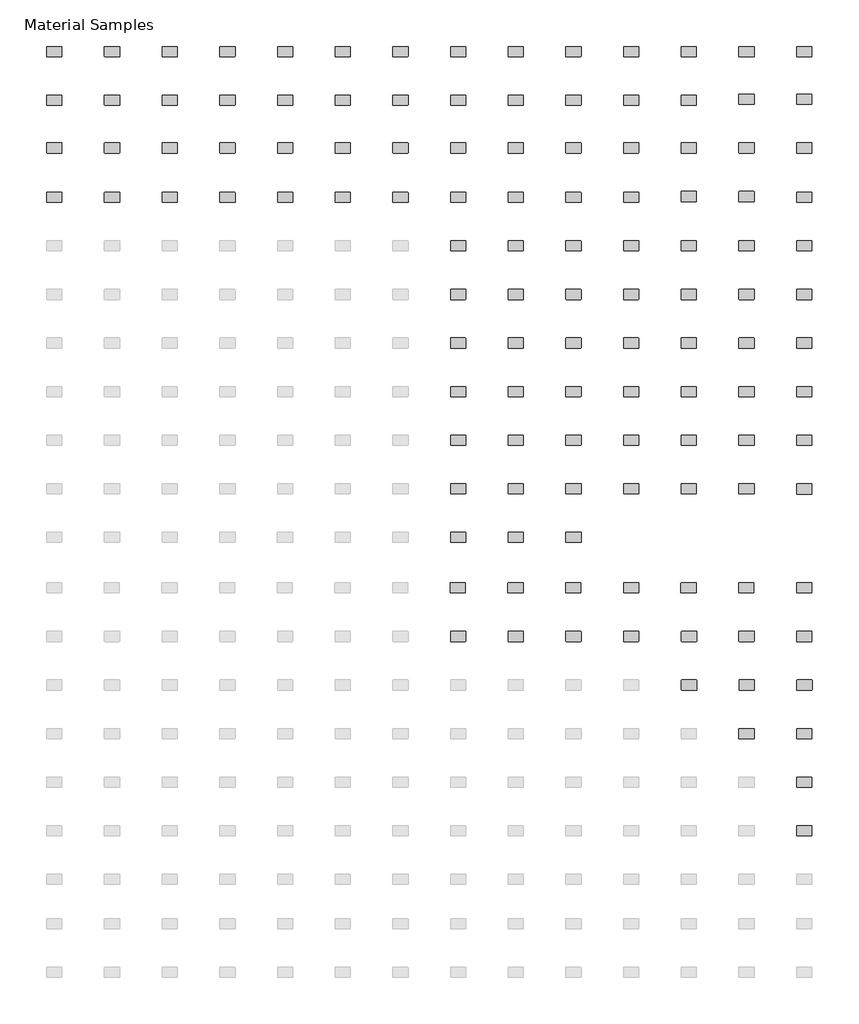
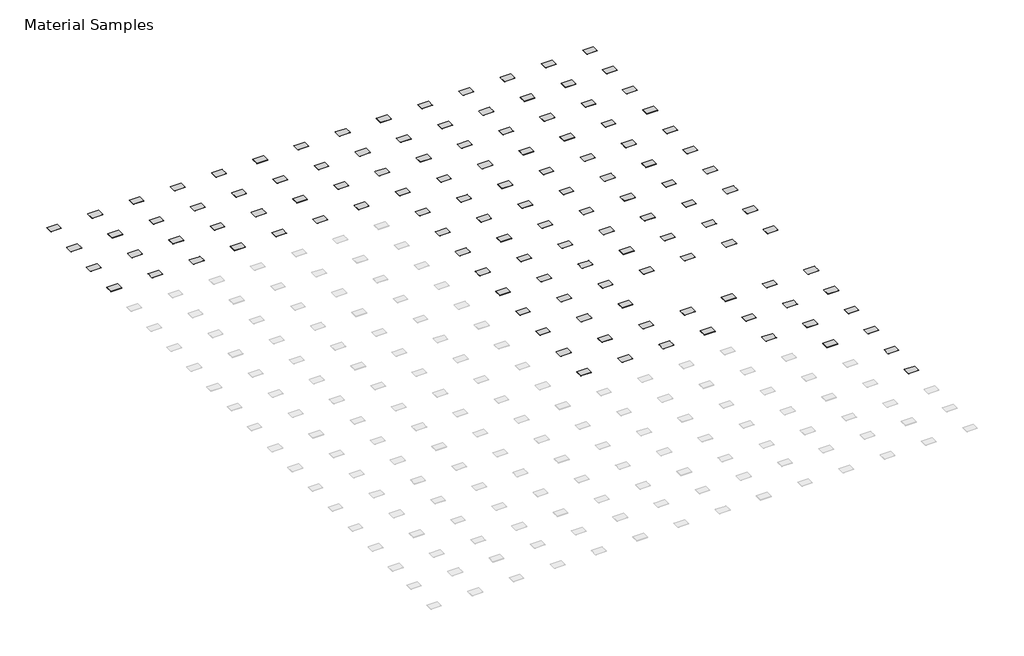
# One storey, part 3 of 3: 122 furniture elements.
"""IFC4 building model written with IfcOpenShell, lengths in millimetres."""

from ifc_helpers import new_model, si_unit, origin, place, context, project, spatial, transform, mapped, element, save
from components import furniture_2008_material_sample3_2x3x1_8_96bf408c

model = new_model("IFC4")

# Units and contexts
model_context = context("Model", 3, world=origin())
ifc_project = project(units=[si_unit("LENGTHUNIT", "METRE", prefix="MILLI")], contexts=[model_context])

# Site, building, storey
site = spatial("IfcSite", under=ifc_project)
building = spatial("IfcBuilding", under=site)
storey = spatial("IfcBuildingStorey", under=building, Name="Material Samples", Elevation=0.0)

# Furniture
placement = place(None, origin())
furniture_2008_material_sample3_2x3x1_8_shape = furniture_2008_material_sample3_2x3x1_8_96bf408c(model_context)
element("IfcFurniture", 1, ObjectType="2008_Material Sample3 : 2x3x1/8", at=placement, inside=storey, context=model_context, shape_type="MappedRepresentation", body=[
    mapped(furniture_2008_material_sample3_2x3x1_8_shape, transform((-41929.8143121, 3848.1724709, 25.4), x_axis=(1.0, 0.0, 0.0), y_axis=(0.0, 1.0, 0.0), z_axis=(0.0, 0.0, 1.0))),
])
element("IfcFurniture", 2, ObjectType="2008_Material Sample3 : 2x3x1/8", at=placement, inside=storey, context=model_context, shape_type="MappedRepresentation", body=[
    mapped(furniture_2008_material_sample3_2x3x1_8_shape, transform((-40482.0057904, 3848.1724709, 25.4), x_axis=(1.0, 0.0, 0.0), y_axis=(0.0, 1.0, 0.0), z_axis=(0.0, 0.0, 1.0))),
])
element("IfcFurniture", 3, ObjectType="2008_Material Sample3 : 2x3x1/8", at=placement, inside=storey, context=model_context, shape_type="MappedRepresentation", body=[
    mapped(furniture_2008_material_sample3_2x3x1_8_shape, transform((-39034.1972688, 3848.1724709, 25.4), x_axis=(1.0, 0.0, 0.0), y_axis=(0.0, 1.0, 0.0), z_axis=(0.0, 0.0, 1.0))),
])
element("IfcFurniture", 4, ObjectType="2008_Material Sample3 : 2x3x1/8", at=placement, inside=storey, context=model_context, shape_type="MappedRepresentation", body=[
    mapped(furniture_2008_material_sample3_2x3x1_8_shape, transform((-37586.3887471, 3848.1724709, 25.4), x_axis=(1.0, 0.0, 0.0), y_axis=(0.0, 1.0, 0.0), z_axis=(0.0, 0.0, 1.0))),
])
element("IfcFurniture", 5, ObjectType="2008_Material Sample3 : 2x3x1/8", at=placement, inside=storey, context=model_context, shape_type="MappedRepresentation", body=[
    mapped(furniture_2008_material_sample3_2x3x1_8_shape, transform((-36138.6910069, 3848.1724709, 25.4), x_axis=(1.0, 0.0, 0.0), y_axis=(0.0, 1.0, 0.0), z_axis=(0.0, 0.0, 1.0))),
])
element("IfcFurniture", 6, ObjectType="2008_Material Sample3 : 2x3x1/8", at=placement, inside=storey, context=model_context, shape_type="MappedRepresentation", body=[
    mapped(furniture_2008_material_sample3_2x3x1_8_shape, transform((-34690.7717038, 3848.1724709, 25.4), x_axis=(1.0, 0.0, 0.0), y_axis=(0.0, 1.0, 0.0), z_axis=(0.0, 0.0, 1.0))),
])
element("IfcFurniture", 7, ObjectType="2008_Material Sample3 : 2x3x1/8", at=placement, inside=storey, context=model_context, shape_type="MappedRepresentation", body=[
    mapped(furniture_2008_material_sample3_2x3x1_8_shape, transform((-33242.9631822, 3848.1724709, 25.4), x_axis=(1.0, 0.0, 0.0), y_axis=(0.0, 1.0, 0.0), z_axis=(0.0, 0.0, 1.0))),
])
element("IfcFurniture", 8, ObjectType="2008_Material Sample3 : 2x3x1/8", at=placement, inside=storey, context=model_context, shape_type="MappedRepresentation", body=[
    mapped(furniture_2008_material_sample3_2x3x1_8_shape, transform((-31795.2143121, 3848.1724709, 25.4), x_axis=(1.0, 0.0, 0.0), y_axis=(0.0, 1.0, 0.0), z_axis=(0.0, 0.0, 1.0))),
])
element("IfcFurniture", 9, ObjectType="2008_Material Sample3 : 2x3x1/8", at=placement, inside=storey, context=model_context, shape_type="MappedRepresentation", body=[
    mapped(furniture_2008_material_sample3_2x3x1_8_shape, transform((-30347.4143121, 3848.1724709, 25.4), x_axis=(1.0, 0.0, 0.0), y_axis=(0.0, 1.0, 0.0), z_axis=(0.0, 0.0, 1.0))),
])
element("IfcFurniture", 10, ObjectType="2008_Material Sample3 : 2x3x1/8", at=placement, inside=storey, context=model_context, shape_type="MappedRepresentation", body=[
    mapped(furniture_2008_material_sample3_2x3x1_8_shape, transform((-28899.6143121, 3848.1724709, 25.4), x_axis=(1.0, 0.0, 0.0), y_axis=(0.0, 1.0, 0.0), z_axis=(0.0, 0.0, 1.0))),
])
element("IfcFurniture", 11, ObjectType="2008_Material Sample3 : 2x3x1/8", at=placement, inside=storey, context=model_context, shape_type="MappedRepresentation", body=[
    mapped(furniture_2008_material_sample3_2x3x1_8_shape, transform((-27451.8143121, 3848.1724709, 25.4), x_axis=(1.0, 0.0, 0.0), y_axis=(0.0, 1.0, 0.0), z_axis=(0.0, 0.0, 1.0))),
])
element("IfcFurniture", 12, ObjectType="2008_Material Sample3 : 2x3x1/8", at=placement, inside=storey, context=model_context, shape_type="MappedRepresentation", body=[
    mapped(furniture_2008_material_sample3_2x3x1_8_shape, transform((-26004.0143121, 3848.1724709, 25.4), x_axis=(1.0, 0.0, 0.0), y_axis=(0.0, 1.0, 0.0), z_axis=(0.0, 0.0, 1.0))),
])
element("IfcFurniture", 13, ObjectType="2008_Material Sample3 : 2x3x1/8", at=placement, inside=storey, context=model_context, shape_type="MappedRepresentation", body=[
    mapped(furniture_2008_material_sample3_2x3x1_8_shape, transform((-24556.2143121, 3848.1724709, 25.4), x_axis=(1.0, 0.0, 0.0), y_axis=(0.0, 1.0, 0.0), z_axis=(0.0, 0.0, 1.0))),
])
element("IfcFurniture", 14, ObjectType="2008_Material Sample3 : 2x3x1/8", at=placement, inside=storey, context=model_context, shape_type="MappedRepresentation", body=[
    mapped(furniture_2008_material_sample3_2x3x1_8_shape, transform((-23108.4143121, 3848.1724709, 25.4), x_axis=(1.0, 0.0, 0.0), y_axis=(0.0, 1.0, 0.0), z_axis=(0.0, 0.0, 1.0))),
])
element("IfcFurniture", 15, ObjectType="2008_Material Sample3 : 2x3x1/8", at=placement, inside=storey, context=model_context, shape_type="MappedRepresentation", body=[
    mapped(furniture_2008_material_sample3_2x3x1_8_shape, transform((-41929.8143121, 2628.9724709, 25.4), x_axis=(1.0, 0.0, 0.0), y_axis=(0.0, 1.0, 0.0), z_axis=(0.0, 0.0, 1.0))),
])
element("IfcFurniture", 16, ObjectType="2008_Material Sample3 : 2x3x1/8", at=placement, inside=storey, context=model_context, shape_type="MappedRepresentation", body=[
    mapped(furniture_2008_material_sample3_2x3x1_8_shape, transform((-40482.0057904, 2628.9724709, 25.4), x_axis=(1.0, 0.0, 0.0), y_axis=(0.0, 1.0, 0.0), z_axis=(0.0, 0.0, 1.0))),
])
element("IfcFurniture", 17, ObjectType="2008_Material Sample3 : 2x3x1/8", at=placement, inside=storey, context=model_context, shape_type="MappedRepresentation", body=[
    mapped(furniture_2008_material_sample3_2x3x1_8_shape, transform((-39034.1972688, 2628.9724709, 25.4), x_axis=(1.0, 0.0, 0.0), y_axis=(0.0, 1.0, 0.0), z_axis=(0.0, 0.0, 1.0))),
])
element("IfcFurniture", 18, ObjectType="2008_Material Sample3 : 2x3x1/8", at=placement, inside=storey, context=model_context, shape_type="MappedRepresentation", body=[
    mapped(furniture_2008_material_sample3_2x3x1_8_shape, transform((-37586.3887471, 2628.9724709, 25.4), x_axis=(1.0, 0.0, 0.0), y_axis=(0.0, 1.0, 0.0), z_axis=(0.0, 0.0, 1.0))),
])
element("IfcFurniture", 19, ObjectType="2008_Material Sample3 : 2x3x1/8", at=placement, inside=storey, context=model_context, shape_type="MappedRepresentation", body=[
    mapped(furniture_2008_material_sample3_2x3x1_8_shape, transform((-36138.6910069, 2628.9724709, 25.4), x_axis=(1.0, 0.0, 0.0), y_axis=(0.0, 1.0, 0.0), z_axis=(0.0, 0.0, 1.0))),
])
element("IfcFurniture", 20, ObjectType="2008_Material Sample3 : 2x3x1/8", at=placement, inside=storey, context=model_context, shape_type="MappedRepresentation", body=[
    mapped(furniture_2008_material_sample3_2x3x1_8_shape, transform((-34690.7717038, 2628.9724709, 25.4), x_axis=(1.0, 0.0, 0.0), y_axis=(0.0, 1.0, 0.0), z_axis=(0.0, 0.0, 1.0))),
])
element("IfcFurniture", 21, ObjectType="2008_Material Sample3 : 2x3x1/8", at=placement, inside=storey, context=model_context, shape_type="MappedRepresentation", body=[
    mapped(furniture_2008_material_sample3_2x3x1_8_shape, transform((-33242.9631822, 2628.9724709, 25.4), x_axis=(1.0, 0.0, 0.0), y_axis=(0.0, 1.0, 0.0), z_axis=(0.0, 0.0, 1.0))),
])
element("IfcFurniture", 22, ObjectType="2008_Material Sample3 : 2x3x1/8", at=placement, inside=storey, context=model_context, shape_type="MappedRepresentation", body=[
    mapped(furniture_2008_material_sample3_2x3x1_8_shape, transform((-31795.2143121, 2628.9724709, 25.4), x_axis=(1.0, 0.0, 0.0), y_axis=(0.0, 1.0, 0.0), z_axis=(0.0, 0.0, 1.0))),
])
element("IfcFurniture", 23, ObjectType="2008_Material Sample3 : 2x3x1/8", at=placement, inside=storey, context=model_context, shape_type="MappedRepresentation", body=[
    mapped(furniture_2008_material_sample3_2x3x1_8_shape, transform((-30347.4143121, 2628.9724709, 25.4), x_axis=(1.0, 0.0, 0.0), y_axis=(0.0, 1.0, 0.0), z_axis=(0.0, 0.0, 1.0))),
])
element("IfcFurniture", 24, ObjectType="2008_Material Sample3 : 2x3x1/8", at=placement, inside=storey, context=model_context, shape_type="MappedRepresentation", body=[
    mapped(furniture_2008_material_sample3_2x3x1_8_shape, transform((-28899.6143121, 2628.9724709, 25.4), x_axis=(1.0, 0.0, 0.0), y_axis=(0.0, 1.0, 0.0), z_axis=(0.0, 0.0, 1.0))),
])
element("IfcFurniture", 25, ObjectType="2008_Material Sample3 : 2x3x1/8", at=placement, inside=storey, context=model_context, shape_type="MappedRepresentation", body=[
    mapped(furniture_2008_material_sample3_2x3x1_8_shape, transform((-27451.8143121, 2628.9724709, 25.4), x_axis=(1.0, 0.0, 0.0), y_axis=(0.0, 1.0, 0.0), z_axis=(0.0, 0.0, 1.0))),
])
element("IfcFurniture", 26, ObjectType="2008_Material Sample3 : 2x3x1/8", at=placement, inside=storey, context=model_context, shape_type="MappedRepresentation", body=[
    mapped(furniture_2008_material_sample3_2x3x1_8_shape, transform((-26004.0143121, 2628.9724709, 25.4), x_axis=(1.0, 0.0, 0.0), y_axis=(0.0, 1.0, 0.0), z_axis=(0.0, 0.0, 1.0))),
])
element("IfcFurniture", 27, ObjectType="2008_Material Sample3 : 2x3x1/8", at=placement, inside=storey, context=model_context, shape_type="MappedRepresentation", body=[
    mapped(furniture_2008_material_sample3_2x3x1_8_shape, transform((-24556.3250935, 2648.0224709, 25.4), x_axis=(1.0, 0.0, 0.0), y_axis=(0.0, 1.0, 0.0), z_axis=(0.0, 0.0, 1.0))),
])
element("IfcFurniture", 28, ObjectType="2008_Material Sample3 : 2x3x1/8", at=placement, inside=storey, context=model_context, shape_type="MappedRepresentation", body=[
    mapped(furniture_2008_material_sample3_2x3x1_8_shape, transform((-23108.5250935, 2648.0224709, 25.4), x_axis=(1.0, 0.0, 0.0), y_axis=(0.0, 1.0, 0.0), z_axis=(0.0, 0.0, 1.0))),
])
element("IfcFurniture", 29, ObjectType="2008_Material Sample3 : 2x3x1/8", at=placement, inside=storey, context=model_context, shape_type="MappedRepresentation", body=[
    mapped(furniture_2008_material_sample3_2x3x1_8_shape, transform((-41929.8143121, 1428.8224709, 25.4), x_axis=(1.0, 0.0, 0.0), y_axis=(0.0, 1.0, 0.0), z_axis=(0.0, 0.0, 1.0))),
])
element("IfcFurniture", 30, ObjectType="2008_Material Sample3 : 2x3x1/8", at=placement, inside=storey, context=model_context, shape_type="MappedRepresentation", body=[
    mapped(furniture_2008_material_sample3_2x3x1_8_shape, transform((-40482.0057904, 1428.8224709, 25.4), x_axis=(1.0, 0.0, 0.0), y_axis=(0.0, 1.0, 0.0), z_axis=(0.0, 0.0, 1.0))),
])
element("IfcFurniture", 31, ObjectType="2008_Material Sample3 : 2x3x1/8", at=placement, inside=storey, context=model_context, shape_type="MappedRepresentation", body=[
    mapped(furniture_2008_material_sample3_2x3x1_8_shape, transform((-39034.1972688, 1428.8224709, 25.4), x_axis=(1.0, 0.0, 0.0), y_axis=(0.0, 1.0, 0.0), z_axis=(0.0, 0.0, 1.0))),
])
element("IfcFurniture", 32, ObjectType="2008_Material Sample3 : 2x3x1/8", at=placement, inside=storey, context=model_context, shape_type="MappedRepresentation", body=[
    mapped(furniture_2008_material_sample3_2x3x1_8_shape, transform((-37586.3887471, 1428.8224709, 25.4), x_axis=(1.0, 0.0, 0.0), y_axis=(0.0, 1.0, 0.0), z_axis=(0.0, 0.0, 1.0))),
])
element("IfcFurniture", 33, ObjectType="2008_Material Sample3 : 2x3x1/8", at=placement, inside=storey, context=model_context, shape_type="MappedRepresentation", body=[
    mapped(furniture_2008_material_sample3_2x3x1_8_shape, transform((-36138.6910069, 1428.8224709, 25.4), x_axis=(1.0, 0.0, 0.0), y_axis=(0.0, 1.0, 0.0), z_axis=(0.0, 0.0, 1.0))),
])
element("IfcFurniture", 34, ObjectType="2008_Material Sample3 : 2x3x1/8", at=placement, inside=storey, context=model_context, shape_type="MappedRepresentation", body=[
    mapped(furniture_2008_material_sample3_2x3x1_8_shape, transform((-34690.7717038, 1428.8224709, 25.4), x_axis=(1.0, 0.0, 0.0), y_axis=(0.0, 1.0, 0.0), z_axis=(0.0, 0.0, 1.0))),
])
element("IfcFurniture", 35, ObjectType="2008_Material Sample3 : 2x3x1/8", at=placement, inside=storey, context=model_context, shape_type="MappedRepresentation", body=[
    mapped(furniture_2008_material_sample3_2x3x1_8_shape, transform((-33242.9631822, 1428.8224709, 25.4), x_axis=(1.0, 0.0, 0.0), y_axis=(0.0, 1.0, 0.0), z_axis=(0.0, 0.0, 1.0))),
])
element("IfcFurniture", 36, ObjectType="2008_Material Sample3 : 2x3x1/8", at=placement, inside=storey, context=model_context, shape_type="MappedRepresentation", body=[
    mapped(furniture_2008_material_sample3_2x3x1_8_shape, transform((-31795.2143121, 1428.8224709, 25.4), x_axis=(1.0, 0.0, 0.0), y_axis=(0.0, 1.0, 0.0), z_axis=(0.0, 0.0, 1.0))),
])
element("IfcFurniture", 37, ObjectType="2008_Material Sample3 : 2x3x1/8", at=placement, inside=storey, context=model_context, shape_type="MappedRepresentation", body=[
    mapped(furniture_2008_material_sample3_2x3x1_8_shape, transform((-30347.4143121, 1428.8224709, 25.4), x_axis=(1.0, 0.0, 0.0), y_axis=(0.0, 1.0, 0.0), z_axis=(0.0, 0.0, 1.0))),
])
element("IfcFurniture", 38, ObjectType="2008_Material Sample3 : 2x3x1/8", at=placement, inside=storey, context=model_context, shape_type="MappedRepresentation", body=[
    mapped(furniture_2008_material_sample3_2x3x1_8_shape, transform((-28899.6143121, 1428.8224709, 25.4), x_axis=(1.0, 0.0, 0.0), y_axis=(0.0, 1.0, 0.0), z_axis=(0.0, 0.0, 1.0))),
])
element("IfcFurniture", 39, ObjectType="2008_Material Sample3 : 2x3x1/8", at=placement, inside=storey, context=model_context, shape_type="MappedRepresentation", body=[
    mapped(furniture_2008_material_sample3_2x3x1_8_shape, transform((-26004.0143121, 1428.8224709, 25.4), x_axis=(1.0, 0.0, 0.0), y_axis=(0.0, 1.0, 0.0), z_axis=(0.0, 0.0, 1.0))),
])
element("IfcFurniture", 40, ObjectType="2008_Material Sample3 : 2x3x1/8", at=placement, inside=storey, context=model_context, shape_type="MappedRepresentation", body=[
    mapped(furniture_2008_material_sample3_2x3x1_8_shape, transform((-24556.2143121, 1428.8224709, 25.4), x_axis=(1.0, 0.0, 0.0), y_axis=(0.0, 1.0, 0.0), z_axis=(0.0, 0.0, 1.0))),
])
element("IfcFurniture", 41, ObjectType="2008_Material Sample3 : 2x3x1/8", at=placement, inside=storey, context=model_context, shape_type="MappedRepresentation", body=[
    mapped(furniture_2008_material_sample3_2x3x1_8_shape, transform((-23108.4143121, 1428.8224709, 25.4), x_axis=(1.0, 0.0, 0.0), y_axis=(0.0, 1.0, 0.0), z_axis=(0.0, 0.0, 1.0))),
])
element("IfcFurniture", 42, ObjectType="2008_Material Sample3 : 2x3x1/8", at=placement, inside=storey, context=model_context, shape_type="MappedRepresentation", body=[
    mapped(furniture_2008_material_sample3_2x3x1_8_shape, transform((-41929.8143121, 190.5724709, 25.4), x_axis=(1.0, 0.0, 0.0), y_axis=(0.0, 1.0, 0.0), z_axis=(0.0, 0.0, 1.0))),
])
element("IfcFurniture", 43, ObjectType="2008_Material Sample3 : 2x3x1/8", at=placement, inside=storey, context=model_context, shape_type="MappedRepresentation", body=[
    mapped(furniture_2008_material_sample3_2x3x1_8_shape, transform((-40482.0057904, 190.5724709, 25.4), x_axis=(1.0, 0.0, 0.0), y_axis=(0.0, 1.0, 0.0), z_axis=(0.0, 0.0, 1.0))),
])
element("IfcFurniture", 44, ObjectType="2008_Material Sample3 : 2x3x1/8", at=placement, inside=storey, context=model_context, shape_type="MappedRepresentation", body=[
    mapped(furniture_2008_material_sample3_2x3x1_8_shape, transform((-39034.1972688, 190.5724709, 25.4), x_axis=(1.0, 0.0, 0.0), y_axis=(0.0, 1.0, 0.0), z_axis=(0.0, 0.0, 1.0))),
])
element("IfcFurniture", 45, ObjectType="2008_Material Sample3 : 2x3x1/8", at=placement, inside=storey, context=model_context, shape_type="MappedRepresentation", body=[
    mapped(furniture_2008_material_sample3_2x3x1_8_shape, transform((-37586.3887471, 190.5724709, 25.4), x_axis=(1.0, 0.0, 0.0), y_axis=(0.0, 1.0, 0.0), z_axis=(0.0, 0.0, 1.0))),
])
element("IfcFurniture", 46, ObjectType="2008_Material Sample3 : 2x3x1/8", at=placement, inside=storey, context=model_context, shape_type="MappedRepresentation", body=[
    mapped(furniture_2008_material_sample3_2x3x1_8_shape, transform((-36138.6910069, 190.5724709, 25.4), x_axis=(1.0, 0.0, 0.0), y_axis=(0.0, 1.0, 0.0), z_axis=(0.0, 0.0, 1.0))),
])
element("IfcFurniture", 47, ObjectType="2008_Material Sample3 : 2x3x1/8", at=placement, inside=storey, context=model_context, shape_type="MappedRepresentation", body=[
    mapped(furniture_2008_material_sample3_2x3x1_8_shape, transform((-34690.7717038, 190.5724709, 25.4), x_axis=(1.0, 0.0, 0.0), y_axis=(0.0, 1.0, 0.0), z_axis=(0.0, 0.0, 1.0))),
])
element("IfcFurniture", 48, ObjectType="2008_Material Sample3 : 2x3x1/8", at=placement, inside=storey, context=model_context, shape_type="MappedRepresentation", body=[
    mapped(furniture_2008_material_sample3_2x3x1_8_shape, transform((-33242.9631822, 190.5724709, 25.4), x_axis=(1.0, 0.0, 0.0), y_axis=(0.0, 1.0, 0.0), z_axis=(0.0, 0.0, 1.0))),
])
element("IfcFurniture", 49, ObjectType="2008_Material Sample3 : 2x3x1/8", at=placement, inside=storey, context=model_context, shape_type="MappedRepresentation", body=[
    mapped(furniture_2008_material_sample3_2x3x1_8_shape, transform((-31795.2143121, 190.5724709, 25.4), x_axis=(1.0, 0.0, 0.0), y_axis=(0.0, 1.0, 0.0), z_axis=(0.0, 0.0, 1.0))),
])
element("IfcFurniture", 50, ObjectType="2008_Material Sample3 : 2x3x1/8", at=placement, inside=storey, context=model_context, shape_type="MappedRepresentation", body=[
    mapped(furniture_2008_material_sample3_2x3x1_8_shape, transform((-30347.4143121, 190.5724709, 25.4), x_axis=(1.0, 0.0, 0.0), y_axis=(0.0, 1.0, 0.0), z_axis=(0.0, 0.0, 1.0))),
])
element("IfcFurniture", 51, ObjectType="2008_Material Sample3 : 2x3x1/8", at=placement, inside=storey, context=model_context, shape_type="MappedRepresentation", body=[
    mapped(furniture_2008_material_sample3_2x3x1_8_shape, transform((-28899.6143121, 190.5724709, 25.4), x_axis=(1.0, 0.0, 0.0), y_axis=(0.0, 1.0, 0.0), z_axis=(0.0, 0.0, 1.0))),
])
element("IfcFurniture", 52, ObjectType="2008_Material Sample3 : 2x3x1/8", at=placement, inside=storey, context=model_context, shape_type="MappedRepresentation", body=[
    mapped(furniture_2008_material_sample3_2x3x1_8_shape, transform((-27451.8143121, 190.5724709, 25.4), x_axis=(1.0, 0.0, 0.0), y_axis=(0.0, 1.0, 0.0), z_axis=(0.0, 0.0, 1.0))),
])
element("IfcFurniture", 53, ObjectType="2008_Material Sample3 : 2x3x1/8", at=placement, inside=storey, context=model_context, shape_type="MappedRepresentation", body=[
    mapped(furniture_2008_material_sample3_2x3x1_8_shape, transform((-26004.0143121, 209.6224709, 25.4), x_axis=(1.0, 0.0, 0.0), y_axis=(0.0, 1.0, 0.0), z_axis=(0.0, 0.0, 1.0))),
])
element("IfcFurniture", 54, ObjectType="2008_Material Sample3 : 2x3x1/8", at=placement, inside=storey, context=model_context, shape_type="MappedRepresentation", body=[
    mapped(furniture_2008_material_sample3_2x3x1_8_shape, transform((-24556.2143121, 209.6224709, 25.4), x_axis=(1.0, 0.0, 0.0), y_axis=(0.0, 1.0, 0.0), z_axis=(0.0, 0.0, 1.0))),
])
element("IfcFurniture", 55, ObjectType="2008_Material Sample3 : 2x3x1/8", at=placement, inside=storey, context=model_context, shape_type="MappedRepresentation", body=[
    mapped(furniture_2008_material_sample3_2x3x1_8_shape, transform((-23108.3035306, 190.5724709, 25.4), x_axis=(1.0, 0.0, 0.0), y_axis=(0.0, 1.0, 0.0), z_axis=(0.0, 0.0, 1.0))),
])
element("IfcFurniture", 56, ObjectType="2008_Material Sample3 : 2x3x1/8", at=placement, inside=storey, context=model_context, shape_type="MappedRepresentation", body=[
    mapped(furniture_2008_material_sample3_2x3x1_8_shape, transform((-31795.2143121, -1028.6275291, 25.4), x_axis=(1.0, 0.0, 0.0), y_axis=(0.0, 1.0, 0.0), z_axis=(0.0, 0.0, 1.0))),
])
element("IfcFurniture", 57, ObjectType="2008_Material Sample3 : 2x3x1/8", at=placement, inside=storey, context=model_context, shape_type="MappedRepresentation", body=[
    mapped(furniture_2008_material_sample3_2x3x1_8_shape, transform((-30347.4143121, -1028.6275291, 25.4), x_axis=(1.0, 0.0, 0.0), y_axis=(0.0, 1.0, 0.0), z_axis=(0.0, 0.0, 1.0))),
])
element("IfcFurniture", 58, ObjectType="2008_Material Sample3 : 2x3x1/8", at=placement, inside=storey, context=model_context, shape_type="MappedRepresentation", body=[
    mapped(furniture_2008_material_sample3_2x3x1_8_shape, transform((-28899.6143121, -1028.6275291, 25.4), x_axis=(1.0, 0.0, 0.0), y_axis=(0.0, 1.0, 0.0), z_axis=(0.0, 0.0, 1.0))),
])
element("IfcFurniture", 59, ObjectType="2008_Material Sample3 : 2x3x1/8", at=placement, inside=storey, context=model_context, shape_type="MappedRepresentation", body=[
    mapped(furniture_2008_material_sample3_2x3x1_8_shape, transform((-27451.8143121, -1028.6275291, 25.4), x_axis=(1.0, 0.0, 0.0), y_axis=(0.0, 1.0, 0.0), z_axis=(0.0, 0.0, 1.0))),
])
element("IfcFurniture", 60, ObjectType="2008_Material Sample3 : 2x3x1/8", at=placement, inside=storey, context=model_context, shape_type="MappedRepresentation", body=[
    mapped(furniture_2008_material_sample3_2x3x1_8_shape, transform((-26004.0143121, -1028.6275291, 25.4), x_axis=(1.0, 0.0, 0.0), y_axis=(0.0, 1.0, 0.0), z_axis=(0.0, 0.0, 1.0))),
])
element("IfcFurniture", 61, ObjectType="2008_Material Sample3 : 2x3x1/8", at=placement, inside=storey, context=model_context, shape_type="MappedRepresentation", body=[
    mapped(furniture_2008_material_sample3_2x3x1_8_shape, transform((-24556.2143121, -1028.6275291, 25.4), x_axis=(1.0, 0.0, 0.0), y_axis=(0.0, 1.0, 0.0), z_axis=(0.0, 0.0, 1.0))),
])
element("IfcFurniture", 62, ObjectType="2008_Material Sample3 : 2x3x1/8", at=placement, inside=storey, context=model_context, shape_type="MappedRepresentation", body=[
    mapped(furniture_2008_material_sample3_2x3x1_8_shape, transform((-23108.4143121, -1028.6275291, 25.4), x_axis=(1.0, 0.0, 0.0), y_axis=(0.0, 1.0, 0.0), z_axis=(0.0, 0.0, 1.0))),
])
element("IfcFurniture", 63, ObjectType="2008_Material Sample3 : 2x3x1/8", at=placement, inside=storey, context=model_context, shape_type="MappedRepresentation", body=[
    mapped(furniture_2008_material_sample3_2x3x1_8_shape, transform((-31795.2143121, -2247.8275291, 25.4), x_axis=(1.0, 0.0, 0.0), y_axis=(0.0, 1.0, 0.0), z_axis=(0.0, 0.0, 1.0))),
])
element("IfcFurniture", 64, ObjectType="2008_Material Sample3 : 2x3x1/8", at=placement, inside=storey, context=model_context, shape_type="MappedRepresentation", body=[
    mapped(furniture_2008_material_sample3_2x3x1_8_shape, transform((-30347.4143121, -2247.8275291, 25.4), x_axis=(1.0, 0.0, 0.0), y_axis=(0.0, 1.0, 0.0), z_axis=(0.0, 0.0, 1.0))),
])
element("IfcFurniture", 65, ObjectType="2008_Material Sample3 : 2x3x1/8", at=placement, inside=storey, context=model_context, shape_type="MappedRepresentation", body=[
    mapped(furniture_2008_material_sample3_2x3x1_8_shape, transform((-28899.6143121, -2247.8275291, 25.4), x_axis=(1.0, 0.0, 0.0), y_axis=(0.0, 1.0, 0.0), z_axis=(0.0, 0.0, 1.0))),
])
element("IfcFurniture", 66, ObjectType="2008_Material Sample3 : 2x3x1/8", at=placement, inside=storey, context=model_context, shape_type="MappedRepresentation", body=[
    mapped(furniture_2008_material_sample3_2x3x1_8_shape, transform((-26004.0143121, -2247.8275291, 25.4), x_axis=(1.0, 0.0, 0.0), y_axis=(0.0, 1.0, 0.0), z_axis=(0.0, 0.0, 1.0))),
])
element("IfcFurniture", 67, ObjectType="2008_Material Sample3 : 2x3x1/8", at=placement, inside=storey, context=model_context, shape_type="MappedRepresentation", body=[
    mapped(furniture_2008_material_sample3_2x3x1_8_shape, transform((-24556.2143121, -2247.8275291, 25.4), x_axis=(1.0, 0.0, 0.0), y_axis=(0.0, 1.0, 0.0), z_axis=(0.0, 0.0, 1.0))),
])
element("IfcFurniture", 68, ObjectType="2008_Material Sample3 : 2x3x1/8", at=placement, inside=storey, context=model_context, shape_type="MappedRepresentation", body=[
    mapped(furniture_2008_material_sample3_2x3x1_8_shape, transform((-23108.4143121, -2247.8275291, 25.4), x_axis=(1.0, 0.0, 0.0), y_axis=(0.0, 1.0, 0.0), z_axis=(0.0, 0.0, 1.0))),
])
element("IfcFurniture", 69, ObjectType="2008_Material Sample3 : 2x3x1/8", at=placement, inside=storey, context=model_context, shape_type="MappedRepresentation", body=[
    mapped(furniture_2008_material_sample3_2x3x1_8_shape, transform((-31795.2143121, -3467.0275291, 25.4), x_axis=(1.0, 0.0, 0.0), y_axis=(0.0, 1.0, 0.0), z_axis=(0.0, 0.0, 1.0))),
])
element("IfcFurniture", 70, ObjectType="2008_Material Sample3 : 2x3x1/8", at=placement, inside=storey, context=model_context, shape_type="MappedRepresentation", body=[
    mapped(furniture_2008_material_sample3_2x3x1_8_shape, transform((-30347.4143121, -3467.0275291, 25.4), x_axis=(1.0, 0.0, 0.0), y_axis=(0.0, 1.0, 0.0), z_axis=(0.0, 0.0, 1.0))),
])
element("IfcFurniture", 71, ObjectType="2008_Material Sample3 : 2x3x1/8", at=placement, inside=storey, context=model_context, shape_type="MappedRepresentation", body=[
    mapped(furniture_2008_material_sample3_2x3x1_8_shape, transform((-28899.6143121, -3467.0275291, 25.4), x_axis=(1.0, 0.0, 0.0), y_axis=(0.0, 1.0, 0.0), z_axis=(0.0, 0.0, 1.0))),
])
element("IfcFurniture", 72, ObjectType="2008_Material Sample3 : 2x3x1/8", at=placement, inside=storey, context=model_context, shape_type="MappedRepresentation", body=[
    mapped(furniture_2008_material_sample3_2x3x1_8_shape, transform((-27451.8143121, -3467.0275291, 25.4), x_axis=(1.0, 0.0, 0.0), y_axis=(0.0, 1.0, 0.0), z_axis=(0.0, 0.0, 1.0))),
])
element("IfcFurniture", 73, ObjectType="2008_Material Sample3 : 2x3x1/8", at=placement, inside=storey, context=model_context, shape_type="MappedRepresentation", body=[
    mapped(furniture_2008_material_sample3_2x3x1_8_shape, transform((-26004.0143121, -3467.0275291, 25.4), x_axis=(1.0, 0.0, 0.0), y_axis=(0.0, 1.0, 0.0), z_axis=(0.0, 0.0, 1.0))),
])
element("IfcFurniture", 74, ObjectType="2008_Material Sample3 : 2x3x1/8", at=placement, inside=storey, context=model_context, shape_type="MappedRepresentation", body=[
    mapped(furniture_2008_material_sample3_2x3x1_8_shape, transform((-24556.1035306, -3467.0275291, 25.4), x_axis=(1.0, 0.0, 0.0), y_axis=(0.0, 1.0, 0.0), z_axis=(0.0, 0.0, 1.0))),
])
element("IfcFurniture", 75, ObjectType="2008_Material Sample3 : 2x3x1/8", at=placement, inside=storey, context=model_context, shape_type="MappedRepresentation", body=[
    mapped(furniture_2008_material_sample3_2x3x1_8_shape, transform((-23108.3035306, -3467.0275291, 25.4), x_axis=(1.0, 0.0, 0.0), y_axis=(0.0, 1.0, 0.0), z_axis=(0.0, 0.0, 1.0))),
])
element("IfcFurniture", 76, ObjectType="2008_Material Sample3 : 2x3x1/8", at=placement, inside=storey, context=model_context, shape_type="MappedRepresentation", body=[
    mapped(furniture_2008_material_sample3_2x3x1_8_shape, transform((-31795.1035306, -4686.2275291, 25.4), x_axis=(1.0, 0.0, 0.0), y_axis=(0.0, 1.0, 0.0), z_axis=(0.0, 0.0, 1.0))),
])
element("IfcFurniture", 77, ObjectType="2008_Material Sample3 : 2x3x1/8", at=placement, inside=storey, context=model_context, shape_type="MappedRepresentation", body=[
    mapped(furniture_2008_material_sample3_2x3x1_8_shape, transform((-30347.3035306, -4686.2275291, 25.4), x_axis=(1.0, 0.0, 0.0), y_axis=(0.0, 1.0, 0.0), z_axis=(0.0, 0.0, 1.0))),
])
element("IfcFurniture", 78, ObjectType="2008_Material Sample3 : 2x3x1/8", at=placement, inside=storey, context=model_context, shape_type="MappedRepresentation", body=[
    mapped(furniture_2008_material_sample3_2x3x1_8_shape, transform((-28899.5035306, -4686.2275291, 25.4), x_axis=(1.0, 0.0, 0.0), y_axis=(0.0, 1.0, 0.0), z_axis=(0.0, 0.0, 1.0))),
])
element("IfcFurniture", 79, ObjectType="2008_Material Sample3 : 2x3x1/8", at=placement, inside=storey, context=model_context, shape_type="MappedRepresentation", body=[
    mapped(furniture_2008_material_sample3_2x3x1_8_shape, transform((-26003.9035306, -4686.2275291, 25.4), x_axis=(1.0, 0.0, 0.0), y_axis=(0.0, 1.0, 0.0), z_axis=(0.0, 0.0, 1.0))),
])
element("IfcFurniture", 80, ObjectType="2008_Material Sample3 : 2x3x1/8", at=placement, inside=storey, context=model_context, shape_type="MappedRepresentation", body=[
    mapped(furniture_2008_material_sample3_2x3x1_8_shape, transform((-24556.1035306, -4686.2275291, 25.4), x_axis=(1.0, 0.0, 0.0), y_axis=(0.0, 1.0, 0.0), z_axis=(0.0, 0.0, 1.0))),
])
element("IfcFurniture", 81, ObjectType="2008_Material Sample3 : 2x3x1/8", at=placement, inside=storey, context=model_context, shape_type="MappedRepresentation", body=[
    mapped(furniture_2008_material_sample3_2x3x1_8_shape, transform((-23108.4143121, -4686.2275291, 25.4), x_axis=(1.0, 0.0, 0.0), y_axis=(0.0, 1.0, 0.0), z_axis=(0.0, 0.0, 1.0))),
])
element("IfcFurniture", 82, ObjectType="2008_Material Sample3 : 2x3x1/8", at=placement, inside=storey, context=model_context, shape_type="MappedRepresentation", body=[
    mapped(furniture_2008_material_sample3_2x3x1_8_shape, transform((-31795.1035306, -5905.4275291, 25.4), x_axis=(1.0, 0.0, 0.0), y_axis=(0.0, 1.0, 0.0), z_axis=(0.0, 0.0, 1.0))),
])
element("IfcFurniture", 83, ObjectType="2008_Material Sample3 : 2x3x1/8", at=placement, inside=storey, context=model_context, shape_type="MappedRepresentation", body=[
    mapped(furniture_2008_material_sample3_2x3x1_8_shape, transform((-30347.3035306, -5905.4275291, 25.4), x_axis=(1.0, 0.0, 0.0), y_axis=(0.0, 1.0, 0.0), z_axis=(0.0, 0.0, 1.0))),
])
element("IfcFurniture", 84, ObjectType="2008_Material Sample3 : 2x3x1/8", at=placement, inside=storey, context=model_context, shape_type="MappedRepresentation", body=[
    mapped(furniture_2008_material_sample3_2x3x1_8_shape, transform((-28899.5035306, -5905.4275291, 25.4), x_axis=(1.0, 0.0, 0.0), y_axis=(0.0, 1.0, 0.0), z_axis=(0.0, 0.0, 1.0))),
])
element("IfcFurniture", 85, ObjectType="2008_Material Sample3 : 2x3x1/8", at=placement, inside=storey, context=model_context, shape_type="MappedRepresentation", body=[
    mapped(furniture_2008_material_sample3_2x3x1_8_shape, transform((-27451.7035306, -5905.4275291, 25.4), x_axis=(1.0, 0.0, 0.0), y_axis=(0.0, 1.0, 0.0), z_axis=(0.0, 0.0, 1.0))),
])
element("IfcFurniture", 86, ObjectType="2008_Material Sample3 : 2x3x1/8", at=placement, inside=storey, context=model_context, shape_type="MappedRepresentation", body=[
    mapped(furniture_2008_material_sample3_2x3x1_8_shape, transform((-26003.9035306, -5905.4275291, 25.4), x_axis=(1.0, 0.0, 0.0), y_axis=(0.0, 1.0, 0.0), z_axis=(0.0, 0.0, 1.0))),
])
element("IfcFurniture", 87, ObjectType="2008_Material Sample3 : 2x3x1/8", at=placement, inside=storey, context=model_context, shape_type="MappedRepresentation", body=[
    mapped(furniture_2008_material_sample3_2x3x1_8_shape, transform((-24556.2143121, -5905.4275291, 25.4), x_axis=(1.0, 0.0, 0.0), y_axis=(0.0, 1.0, 0.0), z_axis=(0.0, 0.0, 1.0))),
])
element("IfcFurniture", 88, ObjectType="2008_Material Sample3 : 2x3x1/8", at=placement, inside=storey, context=model_context, shape_type="MappedRepresentation", body=[
    mapped(furniture_2008_material_sample3_2x3x1_8_shape, transform((-23108.4143121, -5905.4275291, 25.4), x_axis=(1.0, 0.0, 0.0), y_axis=(0.0, 1.0, 0.0), z_axis=(0.0, 0.0, 1.0))),
])
element("IfcFurniture", 89, ObjectType="2008_Material Sample3 : 2x3x1/8", at=placement, inside=storey, context=model_context, shape_type="MappedRepresentation", body=[
    mapped(furniture_2008_material_sample3_2x3x1_8_shape, transform((-31795.1035306, -7124.6275291, 25.4), x_axis=(1.0, 0.0, 0.0), y_axis=(0.0, 1.0, 0.0), z_axis=(0.0, 0.0, 1.0))),
])
element("IfcFurniture", 90, ObjectType="2008_Material Sample3 : 2x3x1/8", at=placement, inside=storey, context=model_context, shape_type="MappedRepresentation", body=[
    mapped(furniture_2008_material_sample3_2x3x1_8_shape, transform((-30347.3035306, -7124.6275291, 25.4), x_axis=(1.0, 0.0, 0.0), y_axis=(0.0, 1.0, 0.0), z_axis=(0.0, 0.0, 1.0))),
])
element("IfcFurniture", 91, ObjectType="2008_Material Sample3 : 2x3x1/8", at=placement, inside=storey, context=model_context, shape_type="MappedRepresentation", body=[
    mapped(furniture_2008_material_sample3_2x3x1_8_shape, transform((-28899.5035306, -7124.6275291, 25.4), x_axis=(1.0, 0.0, 0.0), y_axis=(0.0, 1.0, 0.0), z_axis=(0.0, 0.0, 1.0))),
])
element("IfcFurniture", 92, ObjectType="2008_Material Sample3 : 2x3x1/8", at=placement, inside=storey, context=model_context, shape_type="MappedRepresentation", body=[
    mapped(furniture_2008_material_sample3_2x3x1_8_shape, transform((-26003.9035306, -7124.6275291, 25.4), x_axis=(1.0, 0.0, 0.0), y_axis=(0.0, 1.0, 0.0), z_axis=(0.0, 0.0, 1.0))),
])
element("IfcFurniture", 93, ObjectType="2008_Material Sample3 : 2x3x1/8", at=placement, inside=storey, context=model_context, shape_type="MappedRepresentation", body=[
    mapped(furniture_2008_material_sample3_2x3x1_8_shape, transform((-24556.1035306, -7124.6275291, 25.4), x_axis=(1.0, 0.0, 0.0), y_axis=(0.0, 1.0, 0.0), z_axis=(0.0, 0.0, 1.0))),
])
element("IfcFurniture", 94, ObjectType="2008_Material Sample3 : 2x3x1/8", at=placement, inside=storey, context=model_context, shape_type="MappedRepresentation", body=[
    mapped(furniture_2008_material_sample3_2x3x1_8_shape, transform((-23108.3035306, -7130.9775291, 25.4), x_axis=(1.0, 0.0, 0.0), y_axis=(0.0, 1.0, 0.0), z_axis=(0.0, 0.0, 1.0))),
])
element("IfcFurniture", 95, ObjectType="2008_Material Sample3 : 2x3x1/8", at=placement, inside=storey, context=model_context, shape_type="MappedRepresentation", body=[
    mapped(furniture_2008_material_sample3_2x3x1_8_shape, transform((-31795.3250935, -8343.8275291, 25.4), x_axis=(1.0, 0.0, 0.0), y_axis=(0.0, 1.0, 0.0), z_axis=(0.0, 0.0, 1.0))),
])
element("IfcFurniture", 96, ObjectType="2008_Material Sample3 : 2x3x1/8", at=placement, inside=storey, context=model_context, shape_type="MappedRepresentation", body=[
    mapped(furniture_2008_material_sample3_2x3x1_8_shape, transform((-30347.5250935, -8343.8275291, 25.4), x_axis=(1.0, 0.0, 0.0), y_axis=(0.0, 1.0, 0.0), z_axis=(0.0, 0.0, 1.0))),
])
element("IfcFurniture", 97, ObjectType="2008_Material Sample3 : 2x3x1/8", at=placement, inside=storey, context=model_context, shape_type="MappedRepresentation", body=[
    mapped(furniture_2008_material_sample3_2x3x1_8_shape, transform((-28899.7250935, -8343.8275291, 25.4), x_axis=(1.0, 0.0, 0.0), y_axis=(0.0, 1.0, 0.0), z_axis=(0.0, 0.0, 1.0))),
])
element("IfcFurniture", 98, ObjectType="2008_Material Sample3 : 2x3x1/8", at=placement, inside=storey, context=model_context, shape_type="MappedRepresentation", body=[
    mapped(furniture_2008_material_sample3_2x3x1_8_shape, transform((-31801.5643121, -9613.8275291, 25.4), x_axis=(1.0, 0.0, 0.0), y_axis=(0.0, 1.0, 0.0), z_axis=(0.0, 0.0, 1.0))),
])
element("IfcFurniture", 99, ObjectType="2008_Material Sample3 : 2x3x1/8", at=placement, inside=storey, context=model_context, shape_type="MappedRepresentation", body=[
    mapped(furniture_2008_material_sample3_2x3x1_8_shape, transform((-30353.7643121, -9613.8275291, 25.4), x_axis=(1.0, 0.0, 0.0), y_axis=(0.0, 1.0, 0.0), z_axis=(0.0, 0.0, 1.0))),
])
element("IfcFurniture", 100, ObjectType="2008_Material Sample3 : 2x3x1/8", at=placement, inside=storey, context=model_context, shape_type="MappedRepresentation", body=[
    mapped(furniture_2008_material_sample3_2x3x1_8_shape, transform((-28905.9643121, -9613.8275291, 25.4), x_axis=(1.0, 0.0, 0.0), y_axis=(0.0, 1.0, 0.0), z_axis=(0.0, 0.0, 1.0))),
])
element("IfcFurniture", 101, ObjectType="2008_Material Sample3 : 2x3x1/8", at=placement, inside=storey, context=model_context, shape_type="MappedRepresentation", body=[
    mapped(furniture_2008_material_sample3_2x3x1_8_shape, transform((-26010.4750935, -9613.8275291, 25.4), x_axis=(1.0, 0.0, 0.0), y_axis=(0.0, 1.0, 0.0), z_axis=(0.0, 0.0, 1.0))),
])
element("IfcFurniture", 102, ObjectType="2008_Material Sample3 : 2x3x1/8", at=placement, inside=storey, context=model_context, shape_type="MappedRepresentation", body=[
    mapped(furniture_2008_material_sample3_2x3x1_8_shape, transform((-24562.6750935, -9613.8275291, 25.4), x_axis=(1.0, 0.0, 0.0), y_axis=(0.0, 1.0, 0.0), z_axis=(0.0, 0.0, 1.0))),
])
element("IfcFurniture", 103, ObjectType="2008_Material Sample3 : 2x3x1/8", at=placement, inside=storey, context=model_context, shape_type="MappedRepresentation", body=[
    mapped(furniture_2008_material_sample3_2x3x1_8_shape, transform((-23108.5250935, -9613.8275291, 25.4), x_axis=(1.0, 0.0, 0.0), y_axis=(0.0, 1.0, 0.0), z_axis=(0.0, 0.0, 1.0))),
])
element("IfcFurniture", 104, ObjectType="2008_Material Sample3 : 2x3x1/8", at=placement, inside=storey, context=model_context, shape_type="MappedRepresentation", body=[
    mapped(furniture_2008_material_sample3_2x3x1_8_shape, transform((-31795.2143121, -10833.0275291, 25.4), x_axis=(1.0, 0.0, 0.0), y_axis=(0.0, 1.0, 0.0), z_axis=(0.0, 0.0, 1.0))),
])
element("IfcFurniture", 105, ObjectType="2008_Material Sample3 : 2x3x1/8", at=placement, inside=storey, context=model_context, shape_type="MappedRepresentation", body=[
    mapped(furniture_2008_material_sample3_2x3x1_8_shape, transform((-30347.4143121, -10833.0275291, 25.4), x_axis=(1.0, 0.0, 0.0), y_axis=(0.0, 1.0, 0.0), z_axis=(0.0, 0.0, 1.0))),
])
element("IfcFurniture", 106, ObjectType="2008_Material Sample3 : 2x3x1/8", at=placement, inside=storey, context=model_context, shape_type="MappedRepresentation", body=[
    mapped(furniture_2008_material_sample3_2x3x1_8_shape, transform((-28899.6143121, -10833.0275291, 25.4), x_axis=(1.0, 0.0, 0.0), y_axis=(0.0, 1.0, 0.0), z_axis=(0.0, 0.0, 1.0))),
])
element("IfcFurniture", 107, ObjectType="2008_Material Sample3 : 2x3x1/8", at=placement, inside=storey, context=model_context, shape_type="MappedRepresentation", body=[
    mapped(furniture_2008_material_sample3_2x3x1_8_shape, transform((-27451.8143121, -10833.0275291, 25.4), x_axis=(1.0, 0.0, 0.0), y_axis=(0.0, 1.0, 0.0), z_axis=(0.0, 0.0, 1.0))),
])
element("IfcFurniture", 108, ObjectType="2008_Material Sample3 : 2x3x1/8", at=placement, inside=storey, context=model_context, shape_type="MappedRepresentation", body=[
    mapped(furniture_2008_material_sample3_2x3x1_8_shape, transform((-25997.5535306, -10833.0275291, 25.4), x_axis=(1.0, 0.0, 0.0), y_axis=(0.0, 1.0, 0.0), z_axis=(0.0, 0.0, 1.0))),
])
element("IfcFurniture", 109, ObjectType="2008_Material Sample3 : 2x3x1/8", at=placement, inside=storey, context=model_context, shape_type="MappedRepresentation", body=[
    mapped(furniture_2008_material_sample3_2x3x1_8_shape, transform((-24556.2143121, -10833.0275291, 25.4), x_axis=(1.0, 0.0, 0.0), y_axis=(0.0, 1.0, 0.0), z_axis=(0.0, 0.0, 1.0))),
])
element("IfcFurniture", 110, ObjectType="2008_Material Sample3 : 2x3x1/8", at=placement, inside=storey, context=model_context, shape_type="MappedRepresentation", body=[
    mapped(furniture_2008_material_sample3_2x3x1_8_shape, transform((-23108.4143121, -10833.0275291, 25.4), x_axis=(1.0, 0.0, 0.0), y_axis=(0.0, 1.0, 0.0), z_axis=(0.0, 0.0, 1.0))),
])
element("IfcFurniture", 111, ObjectType="2008_Material Sample3 : 2x3x1/8", at=placement, inside=storey, context=model_context, shape_type="MappedRepresentation", body=[
    mapped(furniture_2008_material_sample3_2x3x1_8_shape, transform((-25997.5535306, -12052.2275291, 25.4), x_axis=(1.0, 0.0, 0.0), y_axis=(0.0, 1.0, 0.0), z_axis=(0.0, 0.0, 1.0))),
])
element("IfcFurniture", 112, ObjectType="2008_Material Sample3 : 2x3x1/8", at=placement, inside=storey, context=model_context, shape_type="MappedRepresentation", body=[
    mapped(furniture_2008_material_sample3_2x3x1_8_shape, transform((-24549.7535306, -12052.2275291, 25.4), x_axis=(1.0, 0.0, 0.0), y_axis=(0.0, 1.0, 0.0), z_axis=(0.0, 0.0, 1.0))),
])
element("IfcFurniture", 113, ObjectType="2008_Material Sample3 : 2x3x1/8", at=placement, inside=storey, context=model_context, shape_type="MappedRepresentation", body=[
    mapped(furniture_2008_material_sample3_2x3x1_8_shape, transform((-23101.9535306, -12052.2275291, 25.4), x_axis=(1.0, 0.0, 0.0), y_axis=(0.0, 1.0, 0.0), z_axis=(0.0, 0.0, 1.0))),
])
element("IfcFurniture", 114, ObjectType="2008_Material Sample3 : 2x3x1/8", at=placement, inside=storey, context=model_context, shape_type="MappedRepresentation", body=[
    mapped(furniture_2008_material_sample3_2x3x1_8_shape, transform((-24556.2143121, -13271.4275291, 25.4), x_axis=(1.0, 0.0, 0.0), y_axis=(0.0, 1.0, 0.0), z_axis=(0.0, 0.0, 1.0))),
])
element("IfcFurniture", 115, ObjectType="2008_Material Sample3 : 2x3x1/8", at=placement, inside=storey, context=model_context, shape_type="MappedRepresentation", body=[
    mapped(furniture_2008_material_sample3_2x3x1_8_shape, transform((-23108.4143121, -13271.4275291, 25.4), x_axis=(1.0, 0.0, 0.0), y_axis=(0.0, 1.0, 0.0), z_axis=(0.0, 0.0, 1.0))),
])
element("IfcFurniture", 116, ObjectType="2008_Material Sample3 : 2x3x1/8", at=placement, inside=storey, context=model_context, shape_type="MappedRepresentation", body=[
    mapped(furniture_2008_material_sample3_2x3x1_8_shape, transform((-23108.4143121, -14490.6275291, 25.4), x_axis=(1.0, 0.0, 0.0), y_axis=(0.0, 1.0, 0.0), z_axis=(0.0, 0.0, 1.0))),
])
element("IfcFurniture", 117, ObjectType="2008_Material Sample3 : 2x3x1/8", at=placement, inside=storey, context=model_context, shape_type="MappedRepresentation", body=[
    mapped(furniture_2008_material_sample3_2x3x1_8_shape, transform((-27451.8143121, 1428.8224709, 25.4), x_axis=(1.0, 0.0, 0.0), y_axis=(0.0, 1.0, 0.0), z_axis=(0.0, 0.0, 1.0))),
])
element("IfcFurniture", 118, ObjectType="2008_Material Sample3 : 2x3x1/8", at=placement, inside=storey, context=model_context, shape_type="MappedRepresentation", body=[
    mapped(furniture_2008_material_sample3_2x3x1_8_shape, transform((-23108.4143121, -15709.8275291, 25.4), x_axis=(1.0, 0.0, 0.0), y_axis=(0.0, 1.0, 0.0), z_axis=(0.0, 0.0, 1.0))),
])
element("IfcFurniture", 119, ObjectType="2008_Material Sample3 : 2x3x1/8", at=placement, inside=storey, context=model_context, shape_type="MappedRepresentation", body=[
    mapped(furniture_2008_material_sample3_2x3x1_8_shape, transform((-27451.8143121, -2247.8275291, 25.4), x_axis=(1.0, 0.0, 0.0), y_axis=(0.0, 1.0, 0.0), z_axis=(0.0, 0.0, 1.0))),
])
element("IfcFurniture", 120, ObjectType="2008_Material Sample3 : 2x3x1/8", at=placement, inside=storey, context=model_context, shape_type="MappedRepresentation", body=[
    mapped(furniture_2008_material_sample3_2x3x1_8_shape, transform((14610.5856879, 16696.2689634, 25.4), x_axis=(-1.0, 0.0, 0.0), y_axis=(0.0, -1.0, 0.0), z_axis=(0.0, 0.0, 1.0))),
])
element("IfcFurniture", 121, ObjectType="2008_Material Sample3 : 2x3x1/8", at=placement, inside=storey, context=model_context, shape_type="MappedRepresentation", body=[
    mapped(furniture_2008_material_sample3_2x3x1_8_shape, transform((-27451.7035306, -7124.6275291, 25.4), x_axis=(1.0, 0.0, 0.0), y_axis=(0.0, 1.0, 0.0), z_axis=(0.0, 0.0, 1.0))),
])
element("IfcFurniture", 122, ObjectType="2008_Material Sample3 : 2x3x1/8", at=placement, inside=storey, context=model_context, shape_type="MappedRepresentation", body=[
    mapped(furniture_2008_material_sample3_2x3x1_8_shape, transform((-27451.8143121, -9613.8275291, 25.4), x_axis=(1.0, 0.0, 0.0), y_axis=(0.0, 1.0, 0.0), z_axis=(0.0, 0.0, 1.0))),
])

save(model, "model.ifc")
